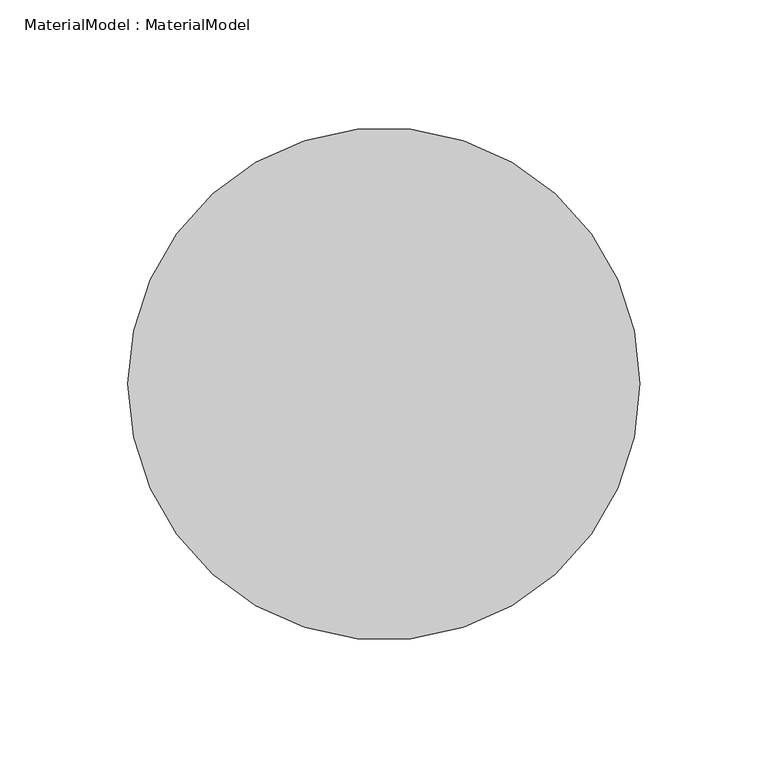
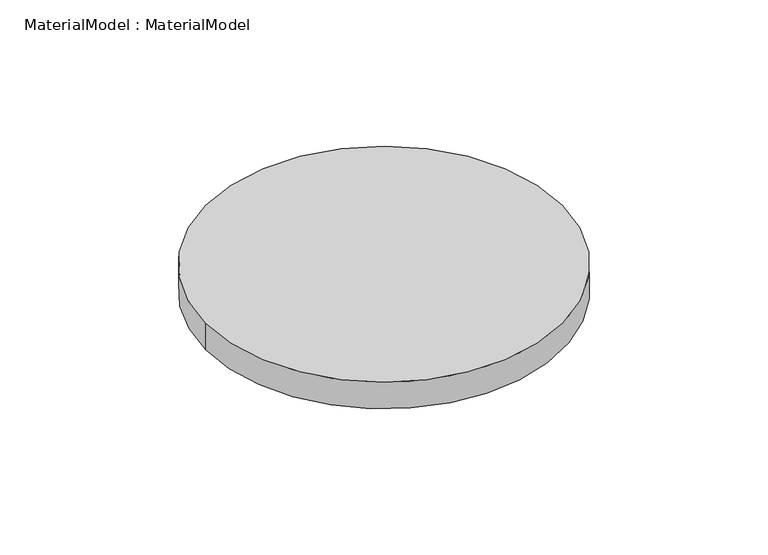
"""IFC4 building model written with IfcOpenShell, lengths in millimetres: proxy geometry, MaterialModel : MaterialModel."""

from ifc_helpers import new_model, si_unit, point, origin, origin_with_axes, origin_2d, place, context, project, spatial, circle_curve, trimmed, segment, composite_curve, outline, extrude, source, transform, mapped, element, save


def materialmodel_materialmodel_2fe208e2(model_context):
    return source(origin(), model_context, "Body", "SweptSolid", [
        extrude(outline(composite_curve([segment(trimmed(circle_curve(origin_2d(), 100.0), [point((-100.0, 0.0))], [point((100.0, 0.0))], False, "CARTESIAN"), True, "CONTINUOUS"), segment(trimmed(circle_curve(origin_2d(), 100.0), [point((100.0, 0.0))], [point((-100.0, 0.0))], False, "CARTESIAN"), True, "CONTINUOUS")], self_intersect=False)), origin_with_axes(), (0.0, 0.0, 1.0), 15.8142806),
    ])


if __name__ == "__main__":
    model = new_model("IFC4")
    model_context = context("Model", 3, world=origin())
    ifc_project = project(units=[si_unit("LENGTHUNIT", "METRE", prefix="MILLI")], contexts=[model_context])
    site = spatial("IfcSite", under=ifc_project)
    building = spatial("IfcBuilding", under=site)
    placement = place(None, origin())
    materialmodel_materialmodel_shape = materialmodel_materialmodel_2fe208e2(model_context)
    element("IfcBuildingElementProxy", 1, Name="MaterialModel : MaterialModel", ObjectType="MaterialModel : MaterialModel", at=placement, inside=building, context=model_context, shape_type="MappedRepresentation", body=[
        mapped(materialmodel_materialmodel_shape, transform((0.0, 0.0, 0.0), x_axis=(1.0, 0.0, 0.0), y_axis=(0.0, 1.0, 0.0), z_axis=(0.0, 0.0, 1.0))),
    ])
    save(model, "model.ifc")
